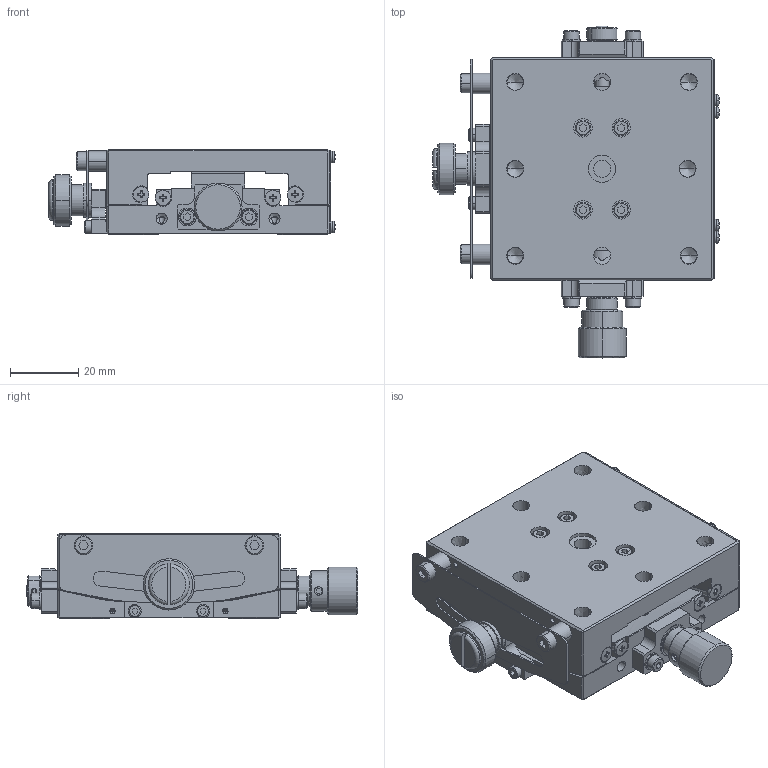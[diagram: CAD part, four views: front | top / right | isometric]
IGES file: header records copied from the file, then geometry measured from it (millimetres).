
Global section: file name: No Iges File Name specified; native system: AutoDesk Inventor R12.0; preprocessor: AutoDesk Inventor Iges Exporter R12.0; date: 20140522.185126; units: millimetre
Bounding box: 83.74 x 97.1 x 25 mm (x, y, z)
Volume: 87029.6 mm3; surface area: 41060.4 mm2
Topology: 2 solids, 42 shells, 1418 faces, 3538 edges, 2223 vertices
Faces by surface type: plane 587, bspline 389, cylinder 197, cone 110, revolution 93, torus 26, sphere 16
